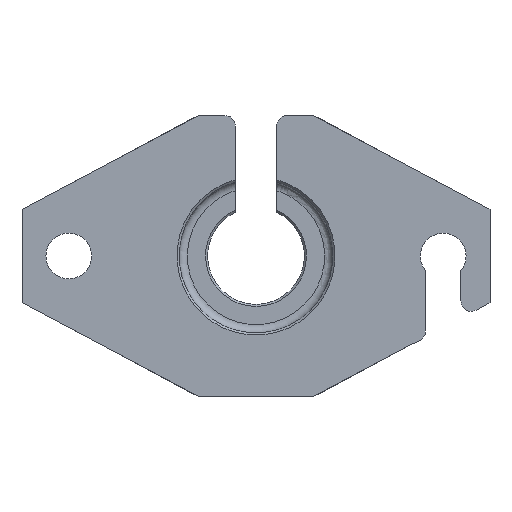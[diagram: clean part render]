
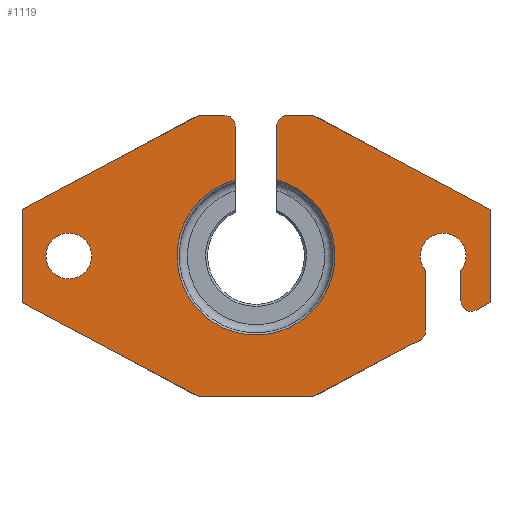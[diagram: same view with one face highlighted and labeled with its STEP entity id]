
A CAD part, front view. The second image highlights one B-rep face of the part: STEP entity #1119.
In plain terms, the highlighted planar face has unit normal (0, -1, 0).
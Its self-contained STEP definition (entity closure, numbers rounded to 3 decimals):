
#34=FACE_BOUND('',#367,.T.);
#44=PLANE('',#1241);
#87=LINE('',#2134,#174);
#91=LINE('',#2141,#178);
#94=LINE('',#2147,#181);
#98=LINE('',#2157,#185);
#103=LINE('',#2174,#190);
#105=LINE('',#2179,#192);
#106=LINE('',#2181,#193);
#107=LINE('',#2183,#194);
#108=LINE('',#2185,#195);
#109=LINE('',#2189,#196);
#110=LINE('',#2193,#197);
#111=LINE('',#2196,#198);
#112=LINE('',#2198,#199);
#113=LINE('',#2199,#200);
#174=VECTOR('',#1456,10.);
#178=VECTOR('',#1462,10.);
#181=VECTOR('',#1467,10.);
#185=VECTOR('',#1477,10.);
#190=VECTOR('',#1496,10.);
#192=VECTOR('',#1502,10.);
#193=VECTOR('',#1503,10.);
#194=VECTOR('',#1504,10.);
#195=VECTOR('',#1505,10.);
#196=VECTOR('',#1508,10.);
#197=VECTOR('',#1511,10.);
#198=VECTOR('',#1514,10.);
#199=VECTOR('',#1515,10.);
#200=VECTOR('',#1516,10.);
#298=FACE_OUTER_BOUND('',#366,.T.);
#366=EDGE_LOOP('',(#908,#909,#910,#911,#912,#913,#914,#915,#916,#917,#918,
#919,#920,#921,#922,#923,#924,#925,#926,#927));
#367=EDGE_LOOP('',(#928));
#450=CIRCLE('',#1232,5.);
#451=CIRCLE('',#1235,5.);
#452=CIRCLE('',#1242,11.);
#453=CIRCLE('',#1243,5.);
#454=CIRCLE('',#1244,38.);
#455=CIRCLE('',#1245,5.);
#456=CIRCLE('',#1246,11.);
#517=VERTEX_POINT('',#2131);
#518=VERTEX_POINT('',#2133);
#520=VERTEX_POINT('',#2139);
#522=VERTEX_POINT('',#2145);
#523=VERTEX_POINT('',#2149);
#524=VERTEX_POINT('',#2151);
#525=VERTEX_POINT('',#2155);
#527=VERTEX_POINT('',#2160);
#528=VERTEX_POINT('',#2162);
#530=VERTEX_POINT('',#2173);
#531=VERTEX_POINT('',#2178);
#532=VERTEX_POINT('',#2180);
#533=VERTEX_POINT('',#2182);
#534=VERTEX_POINT('',#2184);
#535=VERTEX_POINT('',#2186);
#536=VERTEX_POINT('',#2188);
#537=VERTEX_POINT('',#2190);
#538=VERTEX_POINT('',#2192);
#539=VERTEX_POINT('',#2194);
#540=VERTEX_POINT('',#2197);
#541=VERTEX_POINT('',#2200);
#647=EDGE_CURVE('',#517,#518,#87,.T.);
#651=EDGE_CURVE('',#520,#517,#91,.T.);
#654=EDGE_CURVE('',#520,#522,#94,.T.);
#656=EDGE_CURVE('',#523,#524,#450,.T.);
#659=EDGE_CURVE('',#525,#523,#98,.T.);
#661=EDGE_CURVE('',#527,#528,#451,.T.);
#667=EDGE_CURVE('',#530,#528,#103,.T.);
#669=EDGE_CURVE('',#525,#530,#452,.T.);
#670=EDGE_CURVE('',#531,#527,#105,.T.);
#671=EDGE_CURVE('',#531,#532,#106,.T.);
#672=EDGE_CURVE('',#532,#533,#107,.T.);
#673=EDGE_CURVE('',#533,#534,#108,.T.);
#674=EDGE_CURVE('',#535,#534,#453,.T.);
#675=EDGE_CURVE('',#535,#536,#109,.T.);
#676=EDGE_CURVE('',#537,#536,#454,.T.);
#677=EDGE_CURVE('',#538,#537,#110,.T.);
#678=EDGE_CURVE('',#539,#538,#455,.T.);
#679=EDGE_CURVE('',#518,#539,#111,.T.);
#680=EDGE_CURVE('',#540,#522,#112,.T.);
#681=EDGE_CURVE('',#524,#540,#113,.T.);
#682=EDGE_CURVE('',#541,#541,#456,.T.);
#908=ORIENTED_EDGE('',*,*,#656,.F.);
#909=ORIENTED_EDGE('',*,*,#659,.F.);
#910=ORIENTED_EDGE('',*,*,#669,.T.);
#911=ORIENTED_EDGE('',*,*,#667,.T.);
#912=ORIENTED_EDGE('',*,*,#661,.F.);
#913=ORIENTED_EDGE('',*,*,#670,.F.);
#914=ORIENTED_EDGE('',*,*,#671,.T.);
#915=ORIENTED_EDGE('',*,*,#672,.T.);
#916=ORIENTED_EDGE('',*,*,#673,.T.);
#917=ORIENTED_EDGE('',*,*,#674,.F.);
#918=ORIENTED_EDGE('',*,*,#675,.T.);
#919=ORIENTED_EDGE('',*,*,#676,.F.);
#920=ORIENTED_EDGE('',*,*,#677,.F.);
#921=ORIENTED_EDGE('',*,*,#678,.F.);
#922=ORIENTED_EDGE('',*,*,#679,.F.);
#923=ORIENTED_EDGE('',*,*,#647,.F.);
#924=ORIENTED_EDGE('',*,*,#651,.F.);
#925=ORIENTED_EDGE('',*,*,#654,.T.);
#926=ORIENTED_EDGE('',*,*,#680,.F.);
#927=ORIENTED_EDGE('',*,*,#681,.F.);
#928=ORIENTED_EDGE('',*,*,#682,.F.);
#1119=ADVANCED_FACE('',(#298,#34),#44,.F.);
#1232=AXIS2_PLACEMENT_3D('',#2152,#1471,#1472);
#1235=AXIS2_PLACEMENT_3D('',#2163,#1481,#1482);
#1241=AXIS2_PLACEMENT_3D('',#2176,#1498,#1499);
#1242=AXIS2_PLACEMENT_3D('',#2177,#1500,#1501);
#1243=AXIS2_PLACEMENT_3D('',#2187,#1506,#1507);
#1244=AXIS2_PLACEMENT_3D('',#2191,#1509,#1510);
#1245=AXIS2_PLACEMENT_3D('',#2195,#1512,#1513);
#1246=AXIS2_PLACEMENT_3D('',#2201,#1517,#1518);
#1456=DIRECTION('',(0.883,0.,0.469));
#1462=DIRECTION('',(0.,0.,1.));
#1467=DIRECTION('',(0.883,0.,-0.469));
#1471=DIRECTION('center_axis',(0.,1.,0.));
#1472=DIRECTION('ref_axis',(0.857,0.,-0.515));
#1477=DIRECTION('',(0.,0.,-1.));
#1481=DIRECTION('center_axis',(0.,1.,0.));
#1482=DIRECTION('ref_axis',(-0.515,0.,-0.857));
#1496=DIRECTION('',(0.,0.,-1.));
#1498=DIRECTION('center_axis',(0.,1.,0.));
#1499=DIRECTION('ref_axis',(1.,0.,0.));
#1500=DIRECTION('center_axis',(0.,1.,0.));
#1501=DIRECTION('ref_axis',(1.,0.,0.));
#1502=DIRECTION('',(-0.883,0.,-0.469));
#1503=DIRECTION('',(0.,0.,1.));
#1504=DIRECTION('',(-0.883,0.,0.469));
#1505=DIRECTION('',(-1.,0.,0.));
#1506=DIRECTION('center_axis',(0.,1.,0.));
#1507=DIRECTION('ref_axis',(-0.707,0.,0.707));
#1508=DIRECTION('',(0.,0.,-1.));
#1509=DIRECTION('center_axis',(0.,-1.,0.));
#1510=DIRECTION('ref_axis',(1.,0.,0.));
#1511=DIRECTION('',(0.,0.,-1.));
#1512=DIRECTION('center_axis',(0.,1.,0.));
#1513=DIRECTION('ref_axis',(0.707,0.,0.707));
#1514=DIRECTION('',(1.,0.,0.));
#1515=DIRECTION('',(-1.,0.,0.));
#1516=DIRECTION('',(-0.883,0.,-0.469));
#1517=DIRECTION('center_axis',(0.,-1.,0.));
#1518=DIRECTION('ref_axis',(1.,0.,0.));
#2131=CARTESIAN_POINT('',(-112.5,0.,22.5));
#2133=CARTESIAN_POINT('',(-27.867,0.,67.5));
#2134=CARTESIAN_POINT('',(-112.5,0.,22.5));
#2139=CARTESIAN_POINT('',(-112.5,0.,-22.5));
#2141=CARTESIAN_POINT('',(-112.5,0.,0.));
#2145=CARTESIAN_POINT('',(-27.867,0.,-67.5));
#2147=CARTESIAN_POINT('',(-112.5,0.,-22.5));
#2149=CARTESIAN_POINT('',(81.5,0.,-35.979));
#2151=CARTESIAN_POINT('',(78.847,0.,-40.393));
#2152=CARTESIAN_POINT('Origin',(76.5,0.,-35.979));
#2155=CARTESIAN_POINT('',(81.5,0.,-6.982));
#2157=CARTESIAN_POINT('',(81.5,0.,0.));
#2160=CARTESIAN_POINT('',(105.847,0.,-26.037));
#2162=CARTESIAN_POINT('',(98.5,0.,-21.623));
#2163=CARTESIAN_POINT('Origin',(103.5,0.,-21.623));
#2173=CARTESIAN_POINT('',(98.5,0.,-6.982));
#2174=CARTESIAN_POINT('',(98.5,0.,0.));
#2176=CARTESIAN_POINT('Origin',(0.,0.,0.));
#2177=CARTESIAN_POINT('Origin',(90.,0.,0.));
#2178=CARTESIAN_POINT('',(112.5,0.,-22.5));
#2179=CARTESIAN_POINT('',(112.5,0.,-22.5));
#2180=CARTESIAN_POINT('',(112.5,0.,22.5));
#2181=CARTESIAN_POINT('',(112.5,0.,0.));
#2182=CARTESIAN_POINT('',(27.867,0.,67.5));
#2183=CARTESIAN_POINT('',(112.5,0.,22.5));
#2184=CARTESIAN_POINT('',(15.,0.,67.5));
#2185=CARTESIAN_POINT('',(27.867,0.,67.5));
#2186=CARTESIAN_POINT('',(10.,0.,62.5));
#2187=CARTESIAN_POINT('Origin',(15.,0.,62.5));
#2188=CARTESIAN_POINT('',(10.,0.,36.661));
#2189=CARTESIAN_POINT('',(10.,0.,67.5));
#2190=CARTESIAN_POINT('',(-10.,0.,36.661));
#2191=CARTESIAN_POINT('Origin',(0.,0.,0.));
#2192=CARTESIAN_POINT('',(-10.,0.,62.5));
#2193=CARTESIAN_POINT('',(-10.,0.,67.5));
#2194=CARTESIAN_POINT('',(-15.,0.,67.5));
#2195=CARTESIAN_POINT('Origin',(-15.,0.,62.5));
#2196=CARTESIAN_POINT('',(-27.867,0.,67.5));
#2197=CARTESIAN_POINT('',(27.867,0.,-67.5));
#2198=CARTESIAN_POINT('',(27.867,0.,-67.5));
#2199=CARTESIAN_POINT('',(112.5,0.,-22.5));
#2200=CARTESIAN_POINT('',(-101.,0.,0.));
#2201=CARTESIAN_POINT('Origin',(-90.,0.,0.));
